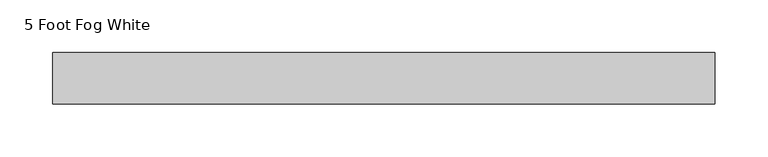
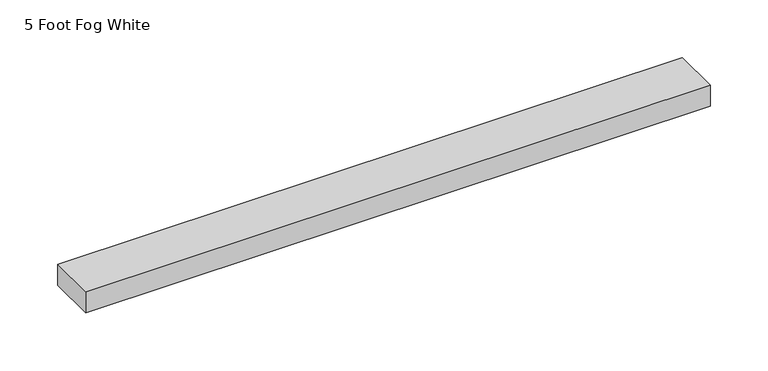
"""IFC4 building model written with IfcOpenShell, lengths in millimetres: proxy geometry, Raceway-2400_Series-Wiremold-Steel : 5 Foot Fog White."""

from ifc_helpers import new_model, si_unit, origin, origin_with_axes, place, context, project, spatial, polyline, outline, extrude, source, transform, mapped, element, save


def proxy_5_foot_fog_white_301fe689(model_context):
    return source(origin(), model_context, "Body", "SweptSolid", [
        extrude(outline(polyline([(624.8404062, 24.2062), (624.8404062, -24.2062), (0.0, -24.2062), (0.0, 24.2062), (624.8404062, 24.2062)])), origin_with_axes(), (0.0, 0.0, 1.0), 22.225),
    ])


if __name__ == "__main__":
    model = new_model("IFC4")
    model_context = context("Model", 3, world=origin())
    ifc_project = project(units=[si_unit("LENGTHUNIT", "METRE", prefix="MILLI")], contexts=[model_context])
    site = spatial("IfcSite", under=ifc_project)
    building = spatial("IfcBuilding", under=site)
    placement = place(None, origin())
    proxy_5_foot_fog_white_shape = proxy_5_foot_fog_white_301fe689(model_context)
    element("IfcBuildingElementProxy", 1, Name="Raceway-2400_Series-Wiremold-Steel : 5 Foot Fog White", ObjectType="Raceway-2400_Series-Wiremold-Steel : 5 Foot Fog White", at=placement, inside=building, context=model_context, shape_type="MappedRepresentation", body=[
        mapped(proxy_5_foot_fog_white_shape, transform((0.0, 0.0, 0.0), x_axis=(1.0, 0.0, 0.0), y_axis=(0.0, 1.0, 0.0), z_axis=(0.0, 0.0, 1.0))),
    ])
    save(model, "model.ifc")
